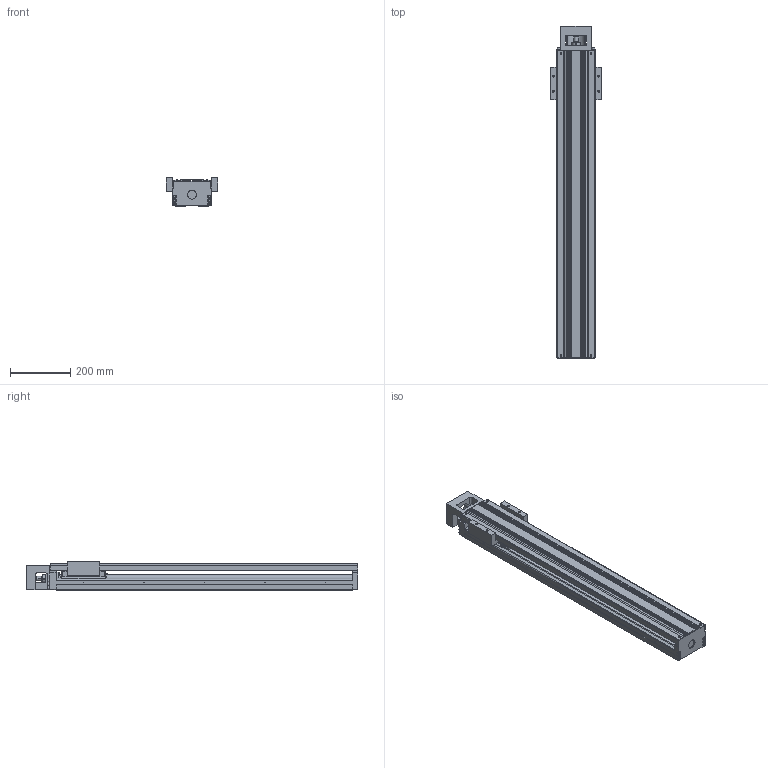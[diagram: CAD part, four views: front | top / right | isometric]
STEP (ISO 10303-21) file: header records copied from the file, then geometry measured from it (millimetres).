
FILE_DESCRIPTION(('no description'),'unknown implementation level');
FILE_NAME('KK13025P980A1F0C00_FILE_8.stp',' ',('HIWIN GmbH'),('CADClick - KiM GmbH - www.kimweb.de'),'unknown preprocess','ACIS','unknown authorization');
FILE_SCHEMA(('automotive_design'));
Length unit declared in the file: millimetre
Products named in the file (2): KK130_FILE; KK13025P980A1F0C00_FILE
Bounding box: 170 x 1098 x 94 mm (x, y, z)
Volume: 5285838 mm3; surface area: 1028504.4 mm2
Topology: 2 solids, 11 shells, 945 faces, 2388 edges, 1545 vertices
Faces by surface type: plane 583, cylinder 308, torus 46, cone 6, sphere 2
Entity records: 55818 total; most frequent: DIRECTION 5056, CARTESIAN_POINT 4986, STYLED_ITEM 4878, PRESENTATION_STYLE_ASSIGNMENT 4878, COLOUR_RGB 4878, ORIENTED_EDGE 4772, EDGE_CURVE 2386, CURVE_STYLE 2386
